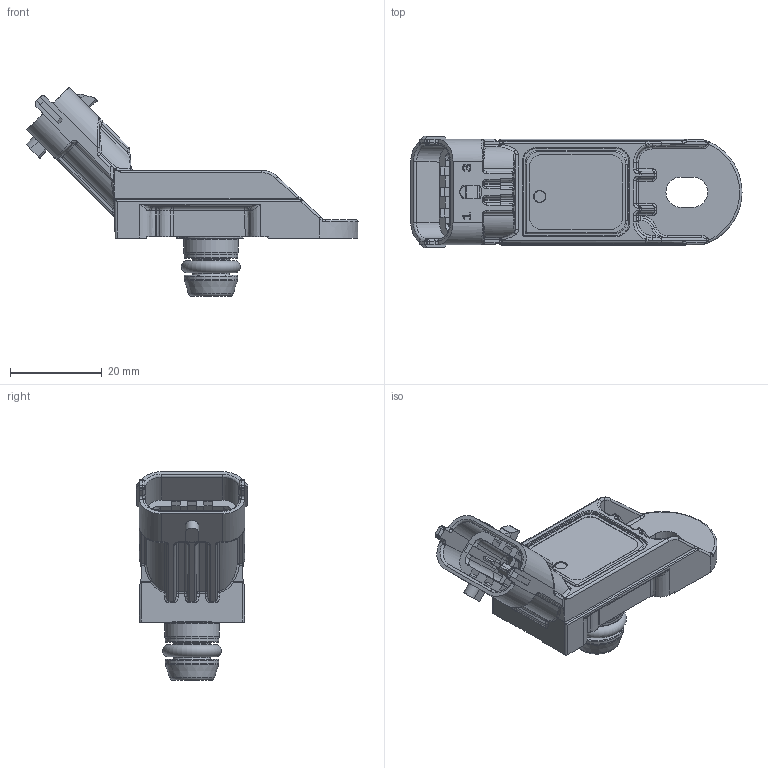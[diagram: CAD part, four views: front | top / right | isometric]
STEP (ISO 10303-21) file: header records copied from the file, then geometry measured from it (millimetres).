
FILE_DESCRIPTION(/* description */ (''),/* implementation_level */ '2;1');
FILE_NAME(/* name */ '0261a04150.e004-AZ DS-S3.stp',/* time_stamp */ '2018-01-31T12:44:16+01:00',/* author */ (''),/* organization */ (''),/* preprocessor_version */ 'ST-DEVELOPER v16',/* originating_system */ 'SIEMENS PLM Software NX 11.0',/* authorisation */ '');
FILE_SCHEMA (('AUTOMOTIVE_DESIGN { 1 0 10303 214 3 1 1 1 }'));
Length unit declared in the file: millimetre
Products named in the file (1): pag225B86238f40s
Bounding box: 72.22 x 24.3 x 45.43 mm (x, y, z)
Volume: 13265.6 mm3; surface area: 9387.2 mm2
Topology: 1 solids, 1 shells, 1461 faces, 3657 edges, 2140 vertices
Faces by surface type: plane 506, cylinder 398, bspline 193, sphere 142, extrusion 126, torus 67, cone 29
Full cylindrical faces by diameter (mm): 1 x6, 1.8 x1, 2.5 x1, 3 x1, 7.9 x2, 11.7 x2, 11.85 x1
Entity records: 45810 total; most frequent: CARTESIAN_POINT 13072, ORIENTED_EDGE 7000, DIRECTION 6469, EDGE_CURVE 3500, AXIS2_PLACEMENT_3D 2300, VERTEX_POINT 2111, VECTOR 1869, LINE 1743
